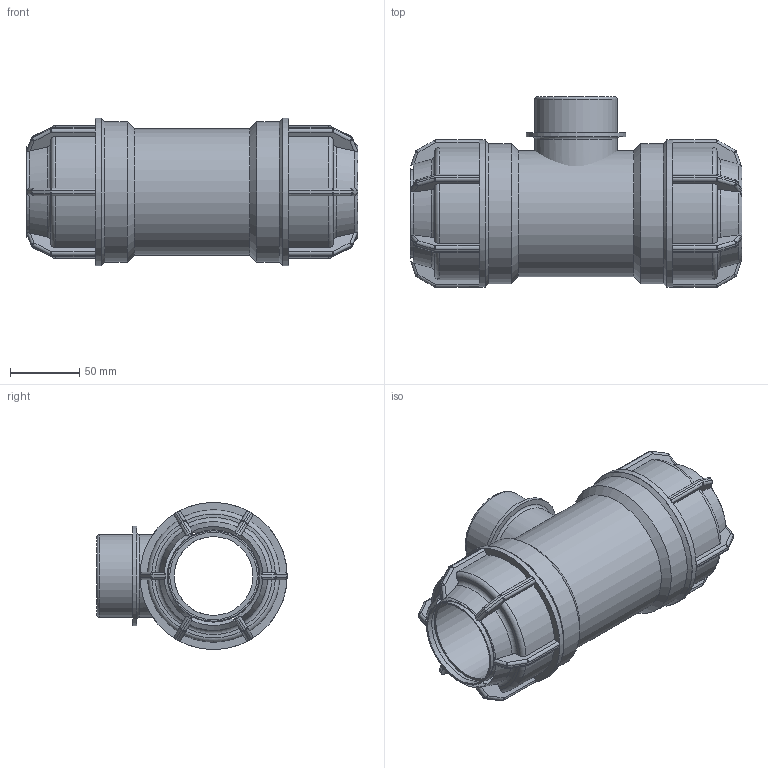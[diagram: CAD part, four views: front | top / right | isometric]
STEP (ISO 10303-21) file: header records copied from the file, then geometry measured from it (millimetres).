
FILE_DESCRIPTION(/* description */ ('PLASSON L.14 TEE MALE ADAPTOR (SILVER) 63-2"-63'),/* implementation_level */ '2;1');
FILE_NAME(/* name */ 'C:\Dropbox\KIMPROJECTS-Inventor\99-16-3568-Processing\Silver+MF ISRAEL\148400\148400063020.ipt.stp',/* time_stamp */ '2018-04-09T13:05:39+03:00',/* author */ ('KIM'),/* organization */ (''),/* preprocessor_version */ 'ST-DEVELOPER v15.6',/* originating_system */ 'Autodesk Inventor 2015',/* authorisation */ '');
FILE_SCHEMA (('AUTOMOTIVE_DESIGN { 1 0 10303 214 3 1 1 }'));
Length unit declared in the file: millimetre
Products named in the file (1): 148400063020
Bounding box: 239 x 137 x 106 mm (x, y, z)
Volume: 888934.7 mm3; surface area: 157472.8 mm2
Topology: 2 solids, 2 shells, 415 faces, 988 edges, 569 vertices
Faces by surface type: plane 195, cylinder 124, sphere 48, torus 30, cone 18
Full cylindrical faces by diameter (mm): 56.7 x3, 59.614 x2, 63 x4, 71.537 x1, 90.72 x1, 100.8 x2, 106 x2
Entity records: 12127 total; most frequent: CARTESIAN_POINT 3224, DIRECTION 1872, ORIENTED_EDGE 1824, EDGE_CURVE 912, AXIS2_PLACEMENT_3D 756, VERTEX_POINT 540, EDGE_LOOP 450, FACE_OUTER_BOUND 410
